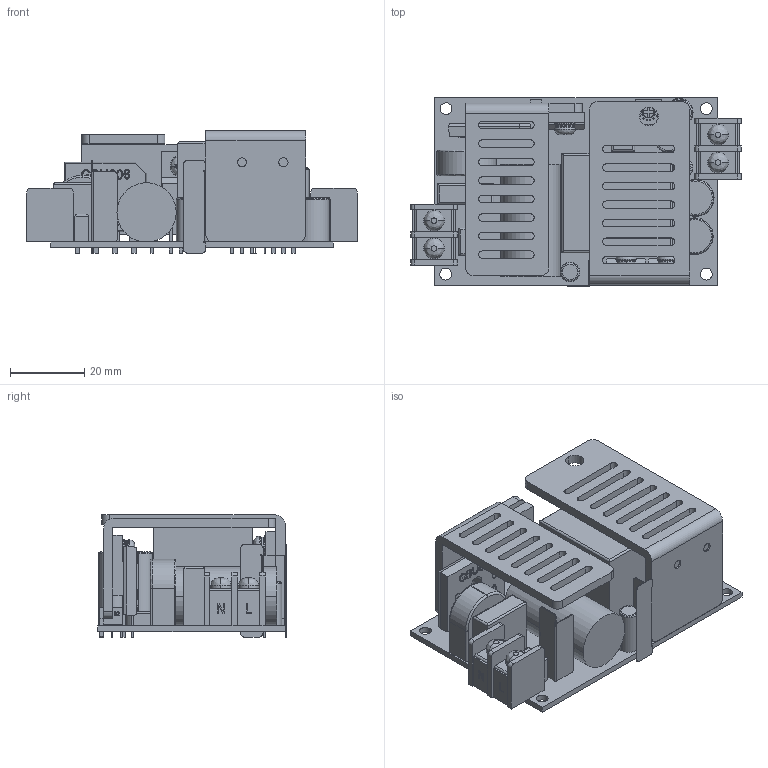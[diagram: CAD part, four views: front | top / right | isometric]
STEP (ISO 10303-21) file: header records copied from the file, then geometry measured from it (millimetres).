
FILE_DESCRIPTION((''),'2;1');
FILE_NAME('SZA60O_ASM','2016-02-02T',('arch'),(''),'PRO/ENGINEER BY PARAMETRIC TECHNOLOGY CORPORATION, 2008380','PRO/ENGINEER BY PARAMETRIC TECHNOLOGY CORPORATION, 2008380','');
FILE_SCHEMA(('AUTOMOTIVE_DESIGN { 1 2 10303 214 0 1 1 1 }'));
Length unit declared in the file: millimetre
Products named in the file (30): MANIFOLD_SOLID_BREP_4414; MANIFOLD_SOLID_BREP_4581; PCB-80_ASM; BD1_1; HEATSINK_-_X1; TO-220FP_1; HEATSINK_-_X2; TO-220FP_2; TO-220FP_3; VR_1; INLET_9_MM_1; INLET_9_MM_2; INLET_-_IN_ASM_ASM; INLET_9_MM_3; INLET_9_MM_4; INLET_-_OUT_ASM_ASM; MYLAR_-_X1_EC102_-_F101_CY101; PCB-41_ASM_ASM; ASSEMBLY_-_SZA60O_ASM_ASM; PRT0030; PRT0031; PRT0032; SCREW_CH_W__M3_6MM_ASM_ASM_ASM_ASM; SCREW_M3_6MM_ASM; PRT0001; PRT0002; PRT0003; ASM0002_ASM; ASM0001_ASM; SZA60O_ASM
Assembly tree (31 placements, depth 5):
  SZA60O_ASM
    ASSEMBLY_-_SZA60O_ASM_ASM
      PCB-41_ASM_ASM
        PCB-80_ASM
          MANIFOLD_SOLID_BREP_4414
          MANIFOLD_SOLID_BREP_4581
        BD1_1
        HEATSINK_-_X1
        TO-220FP_1
        HEATSINK_-_X2
        TO-220FP_2
        TO-220FP_3
        VR_1
        INLET_-_IN_ASM_ASM
          INLET_9_MM_1
          INLET_9_MM_2
        INLET_-_OUT_ASM_ASM
          INLET_9_MM_3
          INLET_9_MM_4
        MYLAR_-_X1_EC102_-_F101_CY101  x2
    SCREW_M3_6MM_ASM  x2
      SCREW_CH_W__M3_6MM_ASM_ASM_ASM_ASM
        PRT0030
        PRT0031
        PRT0032
    ASM0001_ASM
      ASM0002_ASM
        PRT0001
        PRT0002
        PRT0003
Bounding box: 89.2 x 50.85 x 33.01 mm (x, y, z)
Volume: 59024.7 mm3; surface area: 35169.2 mm2
Topology: 24 solids, 24 shells, 1196 faces, 3246 edges, 2172 vertices
Faces by surface type: plane 671, cylinder 228, extrusion 181, torus 82, cone 20, bspline 14
Entity records: 50095 total; most frequent: CARTESIAN_POINT 8839, ORIENTED_EDGE 6040, DIRECTION 5485, PRESENTATION_STYLE_ASSIGNMENT 3352, EDGE_CURVE 3020, STYLED_ITEM 2923, CURVE_STYLE 2909, VECTOR 2077
